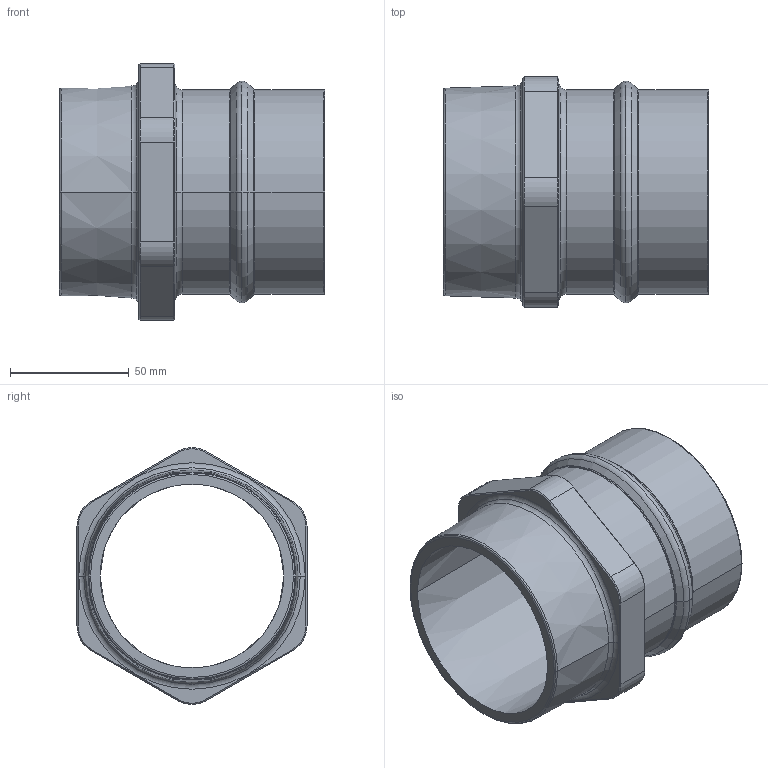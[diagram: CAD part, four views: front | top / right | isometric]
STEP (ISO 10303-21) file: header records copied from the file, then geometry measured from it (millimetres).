
FILE_DESCRIPTION((''),'2;1');
FILE_NAME('2014771700','2017-05-15T',('Administrator'),(''),'PRO/ENGINEER BY PARAMETRIC TECHNOLOGY CORPORATION, 2009360','PRO/ENGINEER BY PARAMETRIC TECHNOLOGY CORPORATION, 2009360','');
FILE_SCHEMA(('AUTOMOTIVE_DESIGN_CC2 { 1 2 10303 214 -1 1 5 2 }'));
Length unit declared in the file: millimetre
Products named in the file (1): 2014771700
Bounding box: 111.87 x 97.02 x 108.28 mm (x, y, z)
Volume: 159542.6 mm3; surface area: 65114.3 mm2
Topology: 1 solids, 1 shells, 80 faces, 178 edges, 102 vertices
Faces by surface type: torus 28, plane 22, cone 20, cylinder 10
Entity records: 2789 total; most frequent: DIRECTION 444, CARTESIAN_POINT 360, ORIENTED_EDGE 356, AXIS2_PLACEMENT_3D 186, PRESENTATION_STYLE_ASSIGNMENT 179, STYLED_ITEM 179, CURVE_STYLE 178, EDGE_CURVE 178
